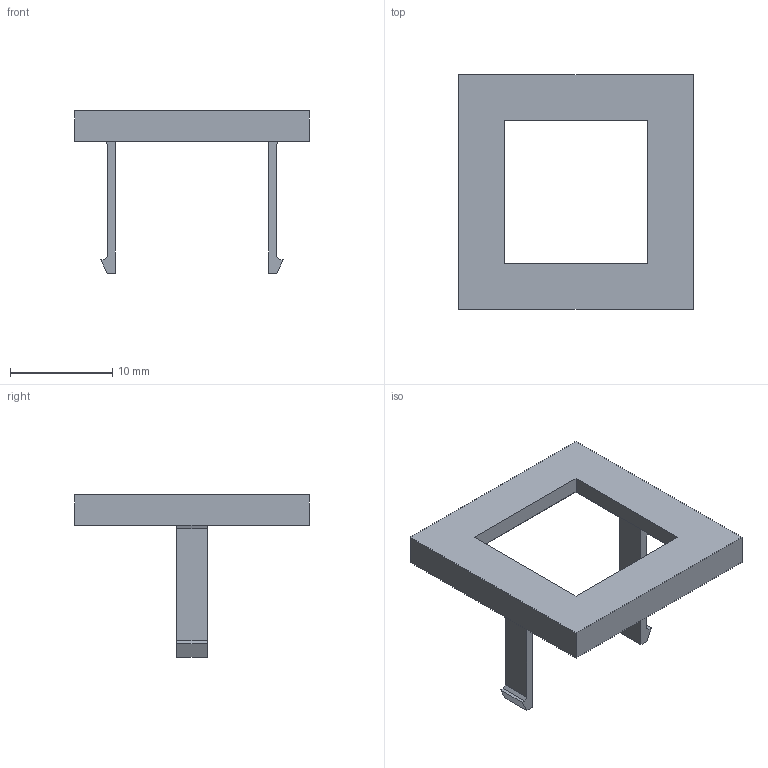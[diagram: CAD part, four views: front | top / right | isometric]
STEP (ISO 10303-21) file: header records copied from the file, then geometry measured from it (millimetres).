
FILE_DESCRIPTION(('Open CASCADE Model'),'2;1');
FILE_NAME('Open CASCADE Shape Model','2026-09-14T20:55:59',('Author'),( 'Open CASCADE'),'Open CASCADE STEP processor 7.9','Open CASCADE 7.9' ,'Unknown');
FILE_SCHEMA(('AUTOMOTIVE_DESIGN { 1 0 10303 214 1 1 1 1 }'));
Length unit declared in the file: millimetre
Products named in the file (1): Open CASCADE STEP translator 7.9 1
Bounding box: 23 x 23 x 15.9 mm (x, y, z)
Volume: 946.1 mm3; surface area: 1327 mm2
Topology: 1 solids, 1 shells, 35 faces, 96 edges, 64 vertices
Faces by surface type: plane 35
Entity records: 2304 total; most frequent: CARTESIAN_POINT 436, DIRECTION 312, LINE 240, VECTOR 240, ORIENTED_EDGE 192, PCURVE 192, DEFINITIONAL_REPRESENTATION 192, EDGE_CURVE 96
